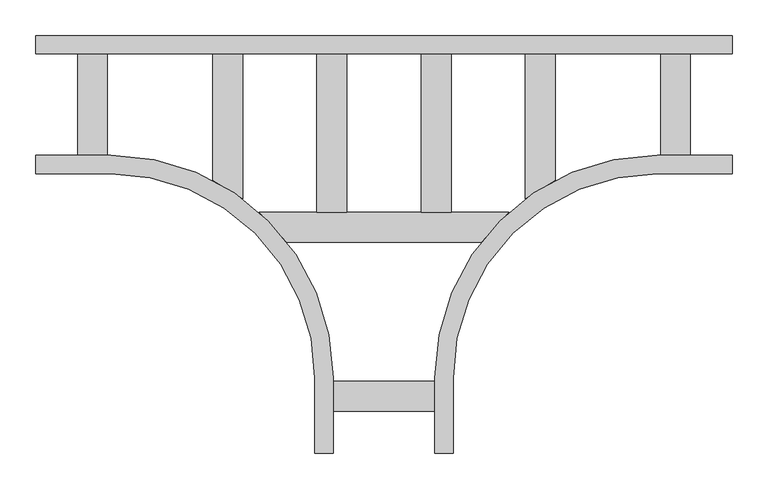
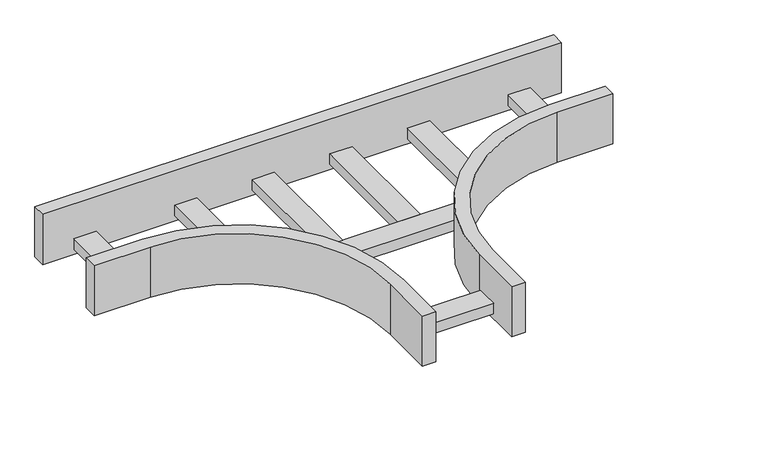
"""IFC4 building model written with IfcOpenShell, lengths in millimetres: cable carrier fitting geometry, Legrand_CableLadder_Swifts_Topaz_Tee-300R-13 : Hot Dip Galvanised (after manufacture)."""

from ifc_helpers import new_model, si_unit, point, frame, frame_2d, origin, place, context, project, spatial, polyline, circle_curve, trimmed, segment, composite_curve, outline, extrude, source, transform, mapped, element, save


def cable_carrier_fitting_0bd57088(model_context):
    return source(origin(), model_context, "Body", "SweptSolid", [
        extrude(outline(composite_curve([segment(polyline([(-240.875, 71.5), (-198.875, 71.5), (-198.875, -132.3598019)]), True, "CONTINUOUS"), segment(trimmed(circle_curve(frame_2d((-384.25, -384.25)), 312.75), [point((-198.875, -132.3598019))], [point((-240.875, -106.3000551))], True, "CARTESIAN"), True, "CONTINUOUS"), segment(polyline([(-240.875, -106.3000551), (-240.875, 71.5)]), True, "CONTINUOUS")], self_intersect=False)), frame((0.0, 0.0, -40.0), z_axis=(0.0, 0.0, 1.0), x_axis=(1.0, 0.0, 0.0)), (0.0, 0.0, 1.0), 21.0),
        extrude(outline(composite_curve([segment(polyline([(198.875, 71.5), (240.875, 71.5), (240.875, -106.3000551)]), True, "CONTINUOUS"), segment(trimmed(circle_curve(frame_2d((384.25, -384.25)), 312.75), [point((240.875, -106.3000551))], [point((198.875, -132.3598019))], True, "CARTESIAN"), True, "CONTINUOUS"), segment(polyline([(198.875, -132.3598019), (198.875, 71.5)]), True, "CONTINUOUS")], self_intersect=False)), frame((0.0, 0.0, -40.0), z_axis=(0.0, 0.0, 1.0), x_axis=(1.0, 0.0, 0.0)), (0.0, 0.0, 1.0), 21.0),
        extrude(outline(polyline([(-94.2916667, -151.5), (-94.2916667, 71.5), (-52.2916667, 71.5), (-52.2916667, -151.5), (-94.2916667, -151.5)])), frame((0.0, 0.0, -40.0), z_axis=(0.0, 0.0, 1.0), x_axis=(1.0, 0.0, 0.0)), (0.0, 0.0, 1.0), 21.0),
        extrude(outline(polyline([(52.2916667, -151.5), (52.2916667, 71.5), (94.2916667, 71.5), (94.2916667, -151.5), (52.2916667, -151.5)])), frame((0.0, 0.0, -40.0), z_axis=(0.0, 0.0, 1.0), x_axis=(1.0, 0.0, 0.0)), (0.0, 0.0, 1.0), 21.0),
        extrude(outline(polyline([(71.5, -388.75), (71.5, -430.75), (-71.5, -430.75), (-71.5, -388.75), (71.5, -388.75)])), frame((0.0, 0.0, -40.0), z_axis=(0.0, 0.0, 1.0), x_axis=(1.0, 0.0, 0.0)), (0.0, 0.0, 1.0), 21.0),
        extrude(outline(polyline([(-430.75, -71.5), (-430.75, 71.5), (-388.75, 71.5), (-388.75, -71.5), (-430.75, -71.5)])), frame((0.0, 0.0, -40.0), z_axis=(0.0, 0.0, 1.0), x_axis=(1.0, 0.0, 0.0)), (0.0, 0.0, 1.0), 21.0),
        extrude(outline(polyline([(430.75, -71.5), (388.75, -71.5), (388.75, 71.5), (430.75, 71.5), (430.75, -71.5)])), frame((0.0, 0.0, -40.0), z_axis=(0.0, 0.0, 1.0), x_axis=(1.0, 0.0, 0.0)), (0.0, 0.0, 1.0), 21.0),
        extrude(outline(composite_curve([segment(polyline([(136.4052906, -193.5), (-136.4052906, -193.5)]), True, "CONTINUOUS"), segment(trimmed(circle_curve(frame_2d((-384.25, -384.25)), 312.75), [point((-136.4052906, -193.5))], [point((-175.3481092, -151.5))], True, "CARTESIAN"), True, "CONTINUOUS"), segment(polyline([(-175.3481092, -151.5), (175.3481092, -151.5)]), True, "CONTINUOUS"), segment(trimmed(circle_curve(frame_2d((384.25, -384.25)), 312.75), [point((175.3481092, -151.5))], [point((136.4052906, -193.5))], True, "CARTESIAN"), True, "CONTINUOUS")], self_intersect=False)), frame((0.0, 0.0, -40.0), z_axis=(0.0, 0.0, 1.0), x_axis=(1.0, 0.0, 0.0)), (0.0, 0.0, 1.0), 21.0),
        extrude(outline(composite_curve([segment(polyline([(489.75, -71.5), (489.75, -97.0), (384.25, -97.0)]), True, "CONTINUOUS"), segment(trimmed(circle_curve(frame_2d((384.25, -384.25)), 287.25), [point((384.25, -97.0))], [point((97.0, -384.25))], True, "CARTESIAN"), True, "CONTINUOUS"), segment(polyline([(97.0, -384.25), (97.0, -489.75), (71.5, -489.75), (71.5, -384.25)]), True, "CONTINUOUS"), segment(trimmed(circle_curve(frame_2d((384.25, -384.25)), 312.75), [point((71.5, -384.25))], [point((384.25, -71.5))], False, "CARTESIAN"), True, "CONTINUOUS"), segment(polyline([(384.25, -71.5), (489.75, -71.5)]), True, "CONTINUOUS")], self_intersect=False)), frame((0.0, 0.0, -50.0), z_axis=(0.0, 0.0, 1.0), x_axis=(1.0, 0.0, 0.0)), (0.0, 0.0, 1.0), 100.0),
        extrude(outline(composite_curve([segment(polyline([(-489.75, -97.0), (-489.75, -71.5), (-384.25, -71.5)]), True, "CONTINUOUS"), segment(trimmed(circle_curve(frame_2d((-384.25, -384.25)), 312.75), [point((-384.25, -71.5))], [point((-71.5, -384.25))], False, "CARTESIAN"), True, "CONTINUOUS"), segment(polyline([(-71.5, -384.25), (-71.5, -489.75), (-97.0, -489.75), (-97.0, -384.25)]), True, "CONTINUOUS"), segment(trimmed(circle_curve(frame_2d((-384.25, -384.25)), 287.25), [point((-97.0, -384.25))], [point((-384.25, -97.0))], True, "CARTESIAN"), True, "CONTINUOUS"), segment(polyline([(-384.25, -97.0), (-489.75, -97.0)]), True, "CONTINUOUS")], self_intersect=False)), frame((0.0, 0.0, -50.0), z_axis=(0.0, 0.0, 1.0), x_axis=(1.0, 0.0, 0.0)), (0.0, 0.0, 1.0), 100.0),
        extrude(outline(polyline([(-489.75, 71.5), (-489.75, 97.0), (489.75, 97.0), (489.75, 71.5), (-489.75, 71.5)])), frame((0.0, 0.0, -50.0), z_axis=(0.0, 0.0, 1.0), x_axis=(1.0, 0.0, 0.0)), (0.0, 0.0, 1.0), 100.0),
    ])


if __name__ == "__main__":
    model = new_model("IFC4")
    model_context = context("Model", 3, world=origin())
    ifc_project = project(units=[si_unit("LENGTHUNIT", "METRE", prefix="MILLI")], contexts=[model_context])
    site = spatial("IfcSite", under=ifc_project)
    building = spatial("IfcBuilding", under=site)
    placement = place(None, origin())
    cable_carrier_fitting_shape = cable_carrier_fitting_0bd57088(model_context)
    element("IfcCableCarrierFitting", 1, ObjectType="Legrand_CableLadder_Swifts_Topaz_Tee-300R-13 : Hot Dip Galvanised (after manufacture)", at=placement, inside=building, context=model_context, shape_type="MappedRepresentation", body=[
        mapped(cable_carrier_fitting_shape, transform((0.0, 0.0, 0.0), x_axis=(1.0, 0.0, 0.0), y_axis=(0.0, 1.0, 0.0), z_axis=(0.0, 0.0, 1.0))),
    ])
    save(model, "model.ifc")
